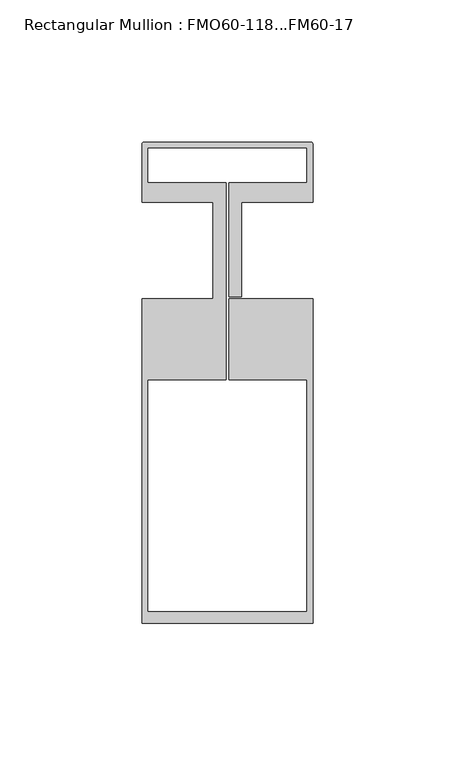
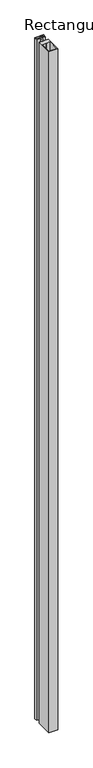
"""IFC4 building model written with IfcOpenShell, lengths in millimetres: member geometry, Rectangular Mullion : FMO60-118...FM60-17."""

from ifc_helpers import new_model, si_unit, point, frame, frame_2d, origin, place, context, project, spatial, polyline, circle_curve, trimmed, segment, composite_curve, outline, extrude, source, transform, mapped, element, save


def rectangular_mullion_fmo60_118_fm60_17_fe835b84(model_context):
    return source(origin(), model_context, "Body", "SweptSolid", [
        extrude(outline(composite_curve([segment(polyline([(-29.5, 38.0025783), (29.5, 38.0025783)]), True, "CONTINUOUS"), segment(trimmed(circle_curve(frame_2d((29.5, 37.5025783)), 0.5), [point((29.5, 38.0025783))], [point((30.0, 37.5025783))], False, "CARTESIAN"), True, "CONTINUOUS"), segment(polyline([(30.0, 37.5025783), (30.0, 17.0), (5.0, 17.0), (5.0, -16.2), (0.5, -16.2), (0.5, 23.8476589), (28.0000412, 23.8476589), (28.0000412, 36.0025783), (-28.0000412, 36.0025783), (-28.0000412, 23.8476589), (-0.5, 23.8476589), (-0.5, -45.5034642), (-28.0, -45.5034642), (-28.0, -127.009342), (28.0, -127.009342), (28.0, -45.5034642), (0.5, -45.5034642), (0.5, -17.0), (30.0, -17.0), (30.0, -131.009342), (-30.0, -131.009342), (-30.0, -17.0), (-5.0, -17.0), (-5.0, 17.0), (-30.0, 17.0), (-30.0, 37.5025783)]), True, "CONTINUOUS"), segment(trimmed(circle_curve(frame_2d((-29.5, 37.5025783)), 0.5), [point((-30.0, 37.5025783))], [point((-29.5, 38.0025783))], False, "CARTESIAN"), True, "CONTINUOUS")], self_intersect=False)), frame((0.0, 0.0, -5000.0), z_axis=(0.0, 0.0, 1.0), x_axis=(1.0, 0.0, 0.0)), (0.0, 0.0, 1.0), 5000.0),
    ])


if __name__ == "__main__":
    model = new_model("IFC4")
    model_context = context("Model", 3, world=origin())
    ifc_project = project(units=[si_unit("LENGTHUNIT", "METRE", prefix="MILLI")], contexts=[model_context])
    site = spatial("IfcSite", under=ifc_project)
    building = spatial("IfcBuilding", under=site)
    placement = place(None, origin())
    rectangular_mullion_fmo60_118_fm60_17_shape = rectangular_mullion_fmo60_118_fm60_17_fe835b84(model_context)
    element("IfcMember", 1, ObjectType="Rectangular Mullion : FMO60-118...FM60-17", at=placement, inside=building, context=model_context, shape_type="MappedRepresentation", body=[
        mapped(rectangular_mullion_fmo60_118_fm60_17_shape, transform((0.0, 0.0, 0.0), x_axis=(1.0, 0.0, 0.0), y_axis=(0.0, 1.0, 0.0), z_axis=(0.0, 0.0, 1.0))),
    ])
    save(model, "model.ifc")
